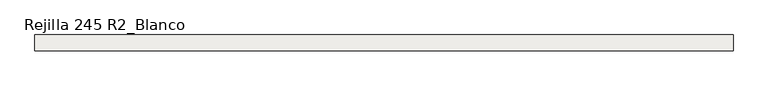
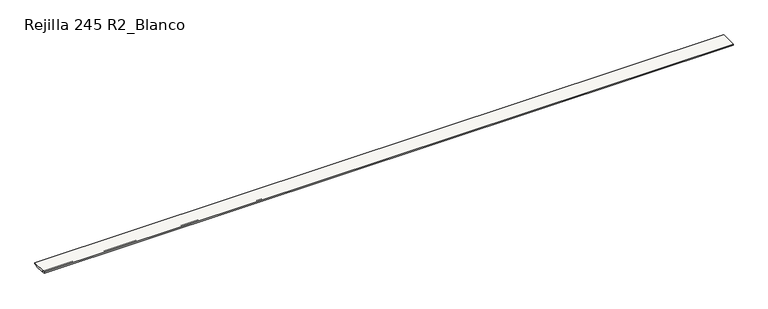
"""IFC4 building model written with IfcOpenShell, lengths in millimetres: slab geometry, ROSA GRES_245 R2_Blanco : Rejilla 245 R2_Blanco."""

import ifcopenshell
import ifcopenshell.guid

model = None  # the IFC model being written
_history = None  # IfcOwnerHistory: only IFC2X3 demands one
_inside = {}  # id of a spatial element -> (the spatial element, [elements in it])
_under = {}  # id of a project, library or spatial element -> (it, [spatial elements below it])
_declared = {}  # id of a project -> (the project, [libraries it declares])
_typed = {}  # id of a type object -> (the type object, [elements of that type])
_made_of = {}  # id of a material, layer set ... -> (it, [elements and type objects made of it])


def new_model(schema):
    """Start an empty IFC model of exactly this schema.

    Asked for "IFC4X3", IfcOpenShell would pick the latest addendum, in which some entities
    have other attributes; the version numbers below select the first issue.
    IFC2X3 requires an IfcOwnerHistory on every rooted entity: one is made here for all.
    """
    global model, _history
    if schema == "IFC4X3":
        model = ifcopenshell.file(schema_version=(4, 3, 0, 0))
    else:
        model = ifcopenshell.file(schema=schema)
    _inside.clear()
    _under.clear()
    _declared.clear()
    _typed.clear()
    _made_of.clear()
    _history = None
    if model.schema == "IFC2X3":
        org = make("IfcOrganization", Name="unknown")
        user = make(
            "IfcPersonAndOrganization",
            ThePerson=make("IfcPerson", FamilyName="unknown"),
            TheOrganization=org,
        )
        app = make(
            "IfcApplication",
            ApplicationDeveloper=org,
            Version="unknown",
            ApplicationFullName="unknown",
            ApplicationIdentifier="unknown",
        )
        _history = make(
            "IfcOwnerHistory",
            OwningUser=user,
            OwningApplication=app,
            ChangeAction="ADDED",
            CreationDate=0,
        )
    return model


def make(cls, **values):
    """One entity of the class cls with the attributes given. An attribute that is None is left unset."""
    return model.create_entity(
        cls, **{name: value for name, value in values.items() if value is not None}
    )


def rooted(cls, **values):
    """An entity with a GlobalId (a new one), such as an element, a storey or a relation."""
    return make(cls, GlobalId=ifcopenshell.guid.new(), OwnerHistory=_history, **values)


def si_unit(unit_type, name, prefix=None):
    """IfcSIUnit, for example si_unit("LENGTHUNIT", "METRE", prefix="MILLI")."""
    return make("IfcSIUnit", UnitType=unit_type, Prefix=prefix, Name=name)


def assignment(units):
    """IfcUnitAssignment: the units of a project."""
    return None if units is None else make("IfcUnitAssignment", Units=units)


def point(xyz):
    """IfcCartesianPoint."""
    return None if xyz is None else make("IfcCartesianPoint", Coordinates=xyz)


def direction(xyz):
    """IfcDirection."""
    return None if xyz is None else make("IfcDirection", DirectionRatios=xyz)


def frame(location, z_axis=None, x_axis=None):
    """IfcAxis2Placement3D, a coordinate frame: its origin and axes. An axis left out is left unset."""
    return make(
        "IfcAxis2Placement3D",
        Location=point(location),
        Axis=direction(z_axis),
        RefDirection=direction(x_axis),
    )


def origin():
    """The frame at (0, 0, 0) with its axes left unset."""
    return frame((0.0, 0.0, 0.0))


def place(relative_to, where):
    """IfcLocalPlacement: puts the frame where relative to a parent placement (None: the world)."""
    return make(
        "IfcLocalPlacement", PlacementRelTo=relative_to, RelativePlacement=where
    )


def context(
    kind, dimensions, precision=None, world=None, true_north=None, identifier=None
):
    """IfcGeometricRepresentationContext, for example the 3D "Model" context."""
    return make(
        "IfcGeometricRepresentationContext",
        ContextIdentifier=identifier,
        ContextType=kind,
        CoordinateSpaceDimension=dimensions,
        Precision=precision,
        WorldCoordinateSystem=world,
        TrueNorth=true_north,
    )


def project(units=None, contexts=None):
    """IfcProject with its units and contexts."""
    return rooted(
        "IfcProject",
        Name="project",
        RepresentationContexts=contexts,
        UnitsInContext=assignment(units),
    )


def spatial(cls, under=None, at=None, **own):
    """A site, building, storey or space (cls), placed at a placement, below another one or the project."""
    s = rooted(cls, ObjectPlacement=at, **own)
    if under is not None:
        _under.setdefault(under.id(), (under, []))[1].append(s)
    return s


def polyline(points):
    """IfcPolyline through the points."""
    return make("IfcPolyline", Points=[point(p) for p in points])


def outline(outer, holes=None, kind="AREA"):
    """IfcArbitraryClosedProfileDef: a profile drawn as a closed curve; with holes, ...WithVoids."""
    if holes is None:
        return make("IfcArbitraryClosedProfileDef", ProfileType=kind, OuterCurve=outer)
    return make(
        "IfcArbitraryProfileDefWithVoids",
        ProfileType=kind,
        OuterCurve=outer,
        InnerCurves=holes,
    )


def extrude(swept, where, along, depth):
    """IfcExtrudedAreaSolid: the profile swept, set in the frame where, extruded along a direction by depth."""
    return make(
        "IfcExtrudedAreaSolid",
        SweptArea=swept,
        Position=where,
        ExtrudedDirection=direction(along),
        Depth=depth,
    )


def shape(context_of_items, identifier, shape_type, items):
    """IfcShapeRepresentation: the items that make up one representation, for example the "Body"."""
    return make(
        "IfcShapeRepresentation",
        ContextOfItems=context_of_items,
        RepresentationIdentifier=identifier,
        RepresentationType=shape_type,
        Items=items,
    )


def source(mapping_origin, context_of_items, identifier, shape_type, items):
    """IfcRepresentationMap: a shape defined once, which mapped items show again and again."""
    return make(
        "IfcRepresentationMap",
        MappingOrigin=mapping_origin,
        MappedRepresentation=shape(context_of_items, identifier, shape_type, items),
    )


def transform(
    local_origin,
    x_axis=None,
    y_axis=None,
    z_axis=None,
    scale=None,
    scale2=None,
    scale3=None,
    uniform=True,
):
    """IfcCartesianTransformationOperator3D, or its non-uniform kind. x_axis, y_axis, z_axis: its Axis1, 2, 3."""
    if uniform:
        return make(
            "IfcCartesianTransformationOperator3D",
            Axis1=direction(x_axis),
            Axis2=direction(y_axis),
            LocalOrigin=point(local_origin),
            Scale=scale,
            Axis3=direction(z_axis),
        )
    return make(
        "IfcCartesianTransformationOperator3DnonUniform",
        Axis1=direction(x_axis),
        Axis2=direction(y_axis),
        LocalOrigin=point(local_origin),
        Scale=scale,
        Axis3=direction(z_axis),
        Scale2=scale2,
        Scale3=scale3,
    )


def mapped(mapping_source, mapping_target):
    """IfcMappedItem: shows the shape of a source again, moved by a transform."""
    return make(
        "IfcMappedItem", MappingSource=mapping_source, MappingTarget=mapping_target
    )


def made_of(thing, what):
    """Note that an element or type object is made of a material, layer set ...; save() writes the relation."""
    if what is not None:
        _made_of.setdefault(what.id(), (what, []))[1].append(thing)
    return thing


def element(
    cls,
    number,
    at=None,
    inside=None,
    cuts=None,
    type_object=None,
    material=None,
    context=None,
    identifier="Body",
    shape_type=None,
    held_by="IfcProductDefinitionShape",
    body=None,
    shapes=None,
    **own,
):
    """One element of the class cls, such as IfcWall. Its Tag is "e" and its number.

    at: its placement. inside: the storey or other place that contains it. cuts: it is an
    opening in that element (IfcRelVoidsElement). A single representation is given by context,
    identifier, shape_type and body (its items); several are given by shapes. held_by: the class
    of the entity that holds the representations. save() writes the other relations.
    """
    e = rooted(cls, Tag="e%d" % number, ObjectPlacement=at, **own)
    if body is not None:
        shapes = [shape(context, identifier, shape_type, body)]
    if shapes is not None:
        e.Representation = make(held_by, Representations=shapes)
    if inside is not None:
        _inside.setdefault(inside.id(), (inside, []))[1].append(e)
    if cuts is not None:
        rooted(
            "IfcRelVoidsElement", RelatingBuildingElement=cuts, RelatedOpeningElement=e
        )
    if type_object is not None:
        _typed.setdefault(type_object.id(), (type_object, []))[1].append(e)
    return made_of(e, material)


def aggregate(whole, parts):
    """IfcRelAggregates: a whole, such as a stair, and the parts it consists of."""
    return rooted("IfcRelAggregates", RelatingObject=whole, RelatedObjects=parts)


def save(model, path):
    """Write the relations noted so far, then the file.

    IfcRelAggregates (storeys below a building ...), IfcRelContainedInSpatialStructure (elements
    in a storey), IfcRelDefinesByType, IfcRelAssociatesMaterial and IfcRelDeclares: one each for
    every whole, place, type object, material and project.
    """
    for whole, parts in _under.values():
        aggregate(whole, parts)
    for where, things in _inside.values():
        rooted(
            "IfcRelContainedInSpatialStructure",
            RelatedElements=things,
            RelatingStructure=where,
        )
    for kind, things in _typed.values():
        rooted("IfcRelDefinesByType", RelatedObjects=things, RelatingType=kind)
    for what, things in _made_of.values():
        rooted("IfcRelAssociatesMaterial", RelatedObjects=things, RelatingMaterial=what)
    for by, libraries in _declared.values():
        rooted("IfcRelDeclares", RelatingContext=by, RelatedDefinitions=libraries)
    model.write(path)


def rejilla_245_r2_blanco_9034627d(model_context):
    return source(origin(), model_context, "Body", "SweptSolid", [
        extrude(outline(polyline([(369.5908797, 206.3460936), (369.5908797, 228.3460936), (614.5908797, 228.3460936), (614.5908797, 206.3460936), (572.3142119, 206.3460936), (561.3142119, 195.3460936), (422.8675475, 195.3460936), (411.8675475, 206.3460936), (369.5908797, 206.3460936)])), frame((0.0, 0.0, 0.0), z_axis=(1.0, 0.0, 0.0), x_axis=(0.0, 1.0, 0.0)), (0.0, 0.0, 1.0), 10640.0),
    ])


if __name__ == "__main__":
    model = new_model("IFC4")
    model_context = context("Model", 3, world=origin())
    ifc_project = project(units=[si_unit("LENGTHUNIT", "METRE", prefix="MILLI")], contexts=[model_context])
    site = spatial("IfcSite", under=ifc_project)
    building = spatial("IfcBuilding", under=site)
    placement = place(None, origin())
    rejilla_245_r2_blanco_shape = rejilla_245_r2_blanco_9034627d(model_context)
    element("IfcSlab", 1, ObjectType="ROSA GRES_245 R2_Blanco : Rejilla 245 R2_Blanco", at=placement, inside=building, context=model_context, shape_type="MappedRepresentation", body=[
        mapped(rejilla_245_r2_blanco_shape, transform((0.0, 0.0, 0.0), x_axis=(1.0, 0.0, 0.0), y_axis=(0.0, 1.0, 0.0), z_axis=(0.0, 0.0, 1.0))),
    ])
    save(model, "model.ifc")
